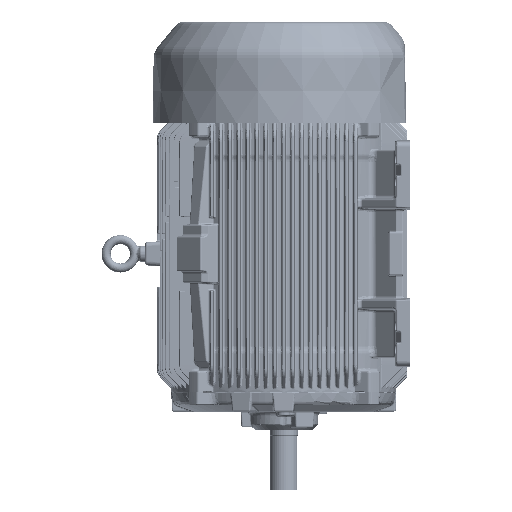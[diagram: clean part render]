
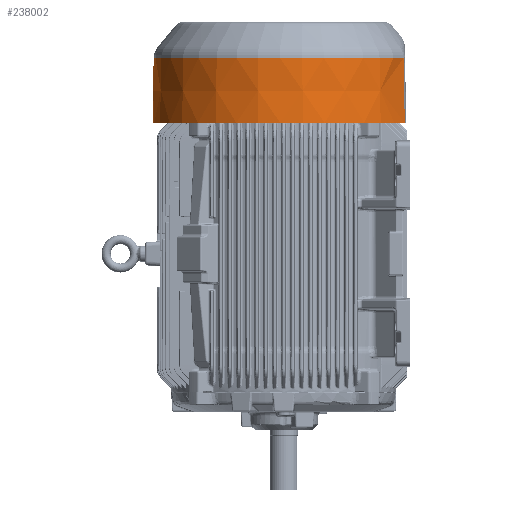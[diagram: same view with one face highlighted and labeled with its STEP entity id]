
A CAD part, left-side view. The second image highlights one B-rep face of the part: STEP entity #238002.
In plain terms, the highlighted conical face has half-angle 1 degrees and reference radius 288.053 mm.
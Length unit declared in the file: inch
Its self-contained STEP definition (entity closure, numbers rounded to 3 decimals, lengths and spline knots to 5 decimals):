
#231053=CARTESIAN_POINT('',(-4.4053,-10.50316,0.));
#231065=CARTESIAN_POINT('',(4.4053,-10.50316,0.));
#231071=CARTESIAN_POINT('',(-4.38861,-10.40404,
-5.60515));
#231072=CARTESIAN_POINT('',(-4.38989,-10.41162,
-5.17622));
#231073=CARTESIAN_POINT('',(-4.3925,-10.42706,
-4.30305));
#231074=CARTESIAN_POINT('',(-4.39649,-10.45079,
-2.96156));
#231075=CARTESIAN_POINT('',(-4.4007,-10.47582,
-1.54612));
#231076=CARTESIAN_POINT('',(-4.40373,-10.49385,
-0.52655));
#231077=CARTESIAN_POINT('',(-4.4053,-10.50316,0.));
#231079=CARTESIAN_POINT('',(-4.38861,-10.40404,
-5.60515));
#231080=CARTESIAN_POINT('',(-4.38884,-10.40394,
-5.60527));
#231081=CARTESIAN_POINT('',(-4.38935,-10.40372,
-5.60548));
#231082=CARTESIAN_POINT('',(-4.39028,-10.40332,
-5.6058));
#231083=CARTESIAN_POINT('',(-4.39142,-10.40283,
-5.60605));
#231084=CARTESIAN_POINT('',(-4.39279,-10.40225,
-5.60622));
#231085=CARTESIAN_POINT('',(-4.3939,-10.40178,
-5.60627));
#231086=CARTESIAN_POINT('',(-4.3945,-10.40153,
-5.60627));
#231088=CARTESIAN_POINT('',(0.,0.,-5.60627));
#231089=DIRECTION('',(0.,0.,-1.));
#231090=DIRECTION('',(-0.389,-0.921,0.));
#231091=AXIS2_PLACEMENT_3D('',#231088,#231089,#231090);
#231093=CARTESIAN_POINT('',(4.38861,-10.40404,
-5.60515));
#231094=CARTESIAN_POINT('',(4.38883,-10.40394,
-5.60528));
#231095=CARTESIAN_POINT('',(4.38935,-10.40372,
-5.60549));
#231096=CARTESIAN_POINT('',(4.39028,-10.40332,
-5.60581));
#231097=CARTESIAN_POINT('',(4.39143,-10.40283,
-5.60606));
#231098=CARTESIAN_POINT('',(4.39278,-10.40226,
-5.60623));
#231099=CARTESIAN_POINT('',(4.39395,-10.40176,
-5.60627));
#231100=CARTESIAN_POINT('',(4.39444,-10.40156,
-5.60627));
#231102=CARTESIAN_POINT('',(4.4053,-10.50316,0.));
#231103=CARTESIAN_POINT('',(4.40402,-10.49554,
-0.43077));
#231104=CARTESIAN_POINT('',(4.40142,-10.48005,
-1.30686));
#231105=CARTESIAN_POINT('',(4.39742,-10.45633,
-2.64795));
#231106=CARTESIAN_POINT('',(4.3932,-10.43125,
-4.0661));
#231107=CARTESIAN_POINT('',(4.39017,-10.4133,
-5.08152));
#231108=CARTESIAN_POINT('',(4.38861,-10.40404,
-5.60515));
#231110=CARTESIAN_POINT('',(0.,0.,0.));
#231111=DIRECTION('',(0.,0.,1.));
#231112=DIRECTION('',(0.387,-0.922,0.));
#231113=AXIS2_PLACEMENT_3D('',#231110,#231111,#231112);
#235807=VERTEX_POINT('',#231053);
#235810=VERTEX_POINT('',#231071);
#235817=VERTEX_POINT('',#231065);
#235818=VERTEX_POINT('',#231108);
#235819=CARTESIAN_POINT('',(-4.3945,-10.40153,
-5.60627));
#235820=CARTESIAN_POINT('',(4.39429,-10.40162,
-5.60627));
#235821=VERTEX_POINT('',#235819);
#235822=VERTEX_POINT('',#235820);
#237987=CARTESIAN_POINT('',(0.,0.,-2.80313));
#237988=DIRECTION('',(0.,0.,1.));
#237989=DIRECTION('',(0.,1.,0.));
#237990=AXIS2_PLACEMENT_3D('',#237987,#237988,#237989);
#237991=CONICAL_SURFACE('',#237990,11.34067,1.);
#237992=ORIENTED_EDGE('',*,*,#237968,.F.);
#237993=ORIENTED_EDGE('',*,*,#237832,.T.);
#237994=ORIENTED_EDGE('',*,*,#237850,.T.);
#237996=ORIENTED_EDGE('',*,*,#237995,.F.);
#237998=ORIENTED_EDGE('',*,*,#237997,.F.);
#237999=ORIENTED_EDGE('',*,*,#237979,.T.);
#238000=EDGE_LOOP('',(#237992,#237993,#237994,#237996,#237998,#237999));
#238001=FACE_OUTER_BOUND('',#238000,.F.);
#238002=ADVANCED_FACE('',(#238001),#237991,.T.);
#231078=B_SPLINE_CURVE_WITH_KNOTS('',3,(#231071,#231072,#231073,#231074,#231075,
#231076,#231077),.UNSPECIFIED.,.F.,.F.,(4,1,1,1,4),(0.,0.25,0.5,0.75,
1.),.UNSPECIFIED.);
#231087=B_SPLINE_CURVE_WITH_KNOTS('',3,(#231079,#231080,#231081,#231082,#231083,
#231084,#231085,#231086),.UNSPECIFIED.,.F.,.F.,(4,1,1,1,1,4),(0.,0.2,0.4,
0.6,0.8,1.),.UNSPECIFIED.);
#231092=CIRCLE('',#231091,11.29174);
#231101=B_SPLINE_CURVE_WITH_KNOTS('',3,(#231093,#231094,#231095,#231096,#231097,
#231098,#231099,#231100),.UNSPECIFIED.,.F.,.F.,(4,1,1,1,1,4),(0.,0.2,0.4,
0.6,0.8,1.),.UNSPECIFIED.);
#231109=B_SPLINE_CURVE_WITH_KNOTS('',3,(#231102,#231103,#231104,#231105,#231106,
#231107,#231108),.UNSPECIFIED.,.F.,.F.,(4,1,1,1,4),(0.,0.25,0.5,0.75,
1.),.UNSPECIFIED.);
#231114=CIRCLE('',#231113,11.3896);
#237832=EDGE_CURVE('',#235810,#235821,#231087,.T.);
#237850=EDGE_CURVE('',#235821,#235822,#231092,.T.);
#237968=EDGE_CURVE('',#235810,#235807,#231078,.T.);
#237979=EDGE_CURVE('',#235817,#235807,#231114,.T.);
#237995=EDGE_CURVE('',#235818,#235822,#231101,.T.);
#237997=EDGE_CURVE('',#235817,#235818,#231109,.T.);
